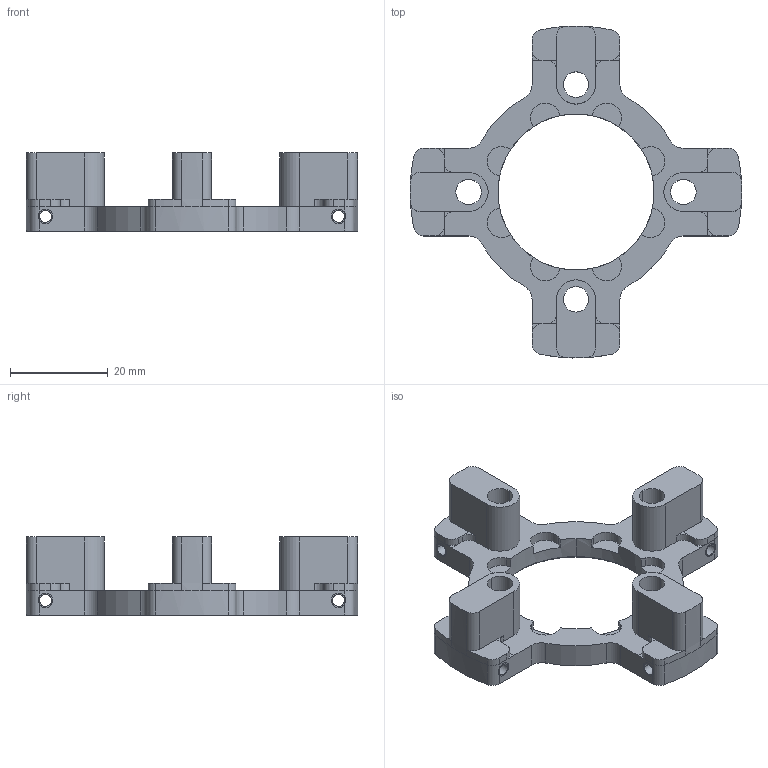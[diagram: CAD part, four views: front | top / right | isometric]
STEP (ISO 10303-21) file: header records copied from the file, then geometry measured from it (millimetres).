
FILE_DESCRIPTION(/* description */ ('(C) Elphel, Inc. 2012. Licensed under CERN OHL v.1.1 or later, see http://ohwr.org/cernohl'),/* implementation_level */ '2;1');
FILE_NAME(/* name */ '0353-19-80A',/* time_stamp */ '2012-06-04T20:24:38-06:00',/* author */ (''),/* organization */ ('Elphel, Inc'),/* preprocessor_version */ 'ST-DEVELOPER v12',/* originating_system */ 'VariCAD 2012-1.04; kernel version (20100102)',/* authorisation */ '');
FILE_SCHEMA (('AUTOMOTIVE_DESIGN'));
Length unit declared in the file: millimetre
Products named in the file (1): Part
Bounding box: 67.99 x 67.99 x 16 mm (x, y, z)
Volume: 9400.4 mm3; surface area: 10170.6 mm2
Topology: 9 solids, 9 shells, 282 faces, 814 edges, 526 vertices
Faces by surface type: cylinder 178, plane 102, cone 2
Entity records: 10183 total; most frequent: CARTESIAN_POINT 2640, ORIENTED_EDGE 1628, DIRECTION 1520, EDGE_CURVE 814, AXIS2_PLACEMENT_3D 558, VERTEX_POINT 526, LINE 404, VECTOR 404
